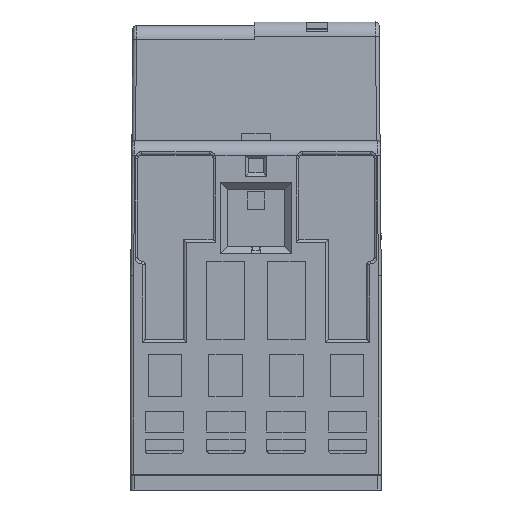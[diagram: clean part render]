
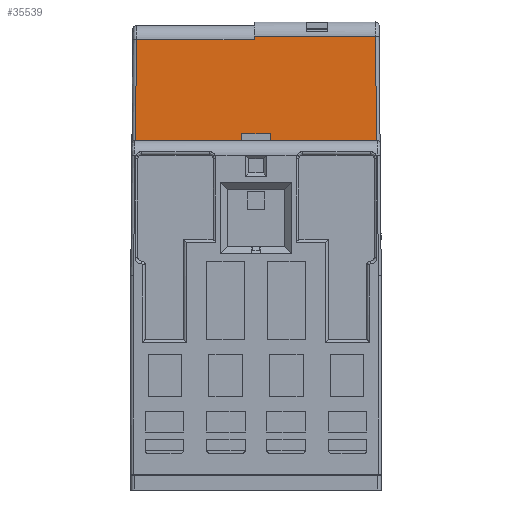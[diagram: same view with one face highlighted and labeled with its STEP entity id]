
A CAD part, front view. The second image highlights one B-rep face of the part: STEP entity #35539.
In plain terms, the highlighted planar face has unit normal (0, -1, 0.009).
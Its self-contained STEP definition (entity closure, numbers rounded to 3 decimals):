
#813 = ORIENTED_EDGE ( 'NONE', *, *, #4881, .T. ) ;
#856 = LINE ( 'NONE', #23758, #29423 ) ;
#1257 = CARTESIAN_POINT ( 'NONE',  ( 0.805, 20.191, 64.96 ) ) ;
#1551 = ORIENTED_EDGE ( 'NONE', *, *, #39621, .T. ) ;
#1689 = VERTEX_POINT ( 'NONE', #13921 ) ;
#2147 = CARTESIAN_POINT ( 'NONE',  ( 0., 20.05, 48.8 ) ) ;
#2700 = DIRECTION ( 'NONE',  ( 1., 0., 0. ) ) ;
#3242 = CARTESIAN_POINT ( 'NONE',  ( 34.208, 20.178, 63.422 ) ) ;
#3402 = ORIENTED_EDGE ( 'NONE', *, *, #27334, .F. ) ;
#4589 = DIRECTION ( 'NONE',  ( 1., 0., 0. ) ) ;
#4651 = DIRECTION ( 'NONE',  ( 1., 0., 0. ) ) ;
#4881 = EDGE_CURVE ( 'NONE', #5892, #37465, #20143, .T. ) ;
#4916 = EDGE_CURVE ( 'NONE', #18955, #30879, #31358, .T. ) ;
#5678 = EDGE_CURVE ( 'NONE', #8302, #35398, #11554, .T. ) ;
#5892 = VERTEX_POINT ( 'NONE', #30176 ) ;
#7245 = VECTOR ( 'NONE', #14444, 1000. ) ;
#7471 = CARTESIAN_POINT ( 'NONE',  ( 15.5, 20.05, 48.8 ) ) ;
#7814 = ORIENTED_EDGE ( 'NONE', *, *, #31598, .T. ) ;
#8091 = VECTOR ( 'NONE', #20500, 1000. ) ;
#8302 = VERTEX_POINT ( 'NONE', #20306 ) ;
#8951 = DIRECTION ( 'NONE',  ( 0., -1., 0.009 ) ) ;
#9365 = VECTOR ( 'NONE', #19216, 1000. ) ;
#9493 = CARTESIAN_POINT ( 'NONE',  ( 17.25, 20.05, 48.8 ) ) ;
#10836 = DIRECTION ( 'NONE',  ( 0., -0.009, -1. ) ) ;
#11554 = LINE ( 'NONE', #34260, #34221 ) ;
#12219 = PLANE ( 'NONE',  #38592 ) ;
#12438 = VECTOR ( 'NONE', #35226, 1000. ) ;
#12517 = VERTEX_POINT ( 'NONE', #15768 ) ;
#13046 = VECTOR ( 'NONE', #10836, 1000. ) ;
#13921 = CARTESIAN_POINT ( 'NONE',  ( 19.5, 20.05, 48.8 ) ) ;
#14019 = ORIENTED_EDGE ( 'NONE', *, *, #28217, .T. ) ;
#14444 = DIRECTION ( 'NONE',  ( 0.009, 0.009, 1. ) ) ;
#14535 = LINE ( 'NONE', #17749, #19539 ) ;
#15125 = VERTEX_POINT ( 'NONE', #22299 ) ;
#15768 = CARTESIAN_POINT ( 'NONE',  ( 17.25, 20.178, 63.422 ) ) ;
#17749 = CARTESIAN_POINT ( 'NONE',  ( -1.112, 20.178, 63.422 ) ) ;
#18955 = VERTEX_POINT ( 'NONE', #27743 ) ;
#19216 = DIRECTION ( 'NONE',  ( 0., -0.009, -1. ) ) ;
#19539 = VECTOR ( 'NONE', #20992, 1000. ) ;
#20143 = LINE ( 'NONE', #37408, #27619 ) ;
#20286 = DIRECTION ( 'NONE',  ( 0., 0.009, 1. ) ) ;
#20306 = CARTESIAN_POINT ( 'NONE',  ( 0.664, 20.05, 48.8 ) ) ;
#20500 = DIRECTION ( 'NONE',  ( -0.009, 0.009, 1. ) ) ;
#20609 = CARTESIAN_POINT ( 'NONE',  ( 34.336, 20.05, 48.8 ) ) ;
#20992 = DIRECTION ( 'NONE',  ( -1., 0., 0. ) ) ;
#21066 = CARTESIAN_POINT ( 'NONE',  ( 19.5, 20.059, 49.8 ) ) ;
#22299 = CARTESIAN_POINT ( 'NONE',  ( 34.208, 20.178, 63.422 ) ) ;
#22401 = EDGE_CURVE ( 'NONE', #15125, #12517, #14535, .T. ) ;
#23758 = CARTESIAN_POINT ( 'NONE',  ( 15.5, 20.05, 48.8 ) ) ;
#23833 = CARTESIAN_POINT ( 'NONE',  ( 17.25, 20.173, 62.917 ) ) ;
#26111 = LINE ( 'NONE', #2147, #28883 ) ;
#27334 = EDGE_CURVE ( 'NONE', #8302, #18955, #30877, .T. ) ;
#27619 = VECTOR ( 'NONE', #4589, 1000. ) ;
#27700 = LINE ( 'NONE', #40851, #13046 ) ;
#27743 = CARTESIAN_POINT ( 'NONE',  ( 0.787, 20.173, 62.917 ) ) ;
#27929 = CARTESIAN_POINT ( 'NONE',  ( 17.25, 20.173, 62.917 ) ) ;
#28176 = EDGE_LOOP ( 'NONE', ( #14019, #813, #1551, #34073, #36889, #40532, #7814, #31805, #3402, #35192 ) ) ;
#28217 = EDGE_CURVE ( 'NONE', #35398, #5892, #856, .T. ) ;
#28656 = VERTEX_POINT ( 'NONE', #20609 ) ;
#28883 = VECTOR ( 'NONE', #32389, 1000. ) ;
#29173 = LINE ( 'NONE', #9493, #9365 ) ;
#29423 = VECTOR ( 'NONE', #20286, 1000. ) ;
#29618 = LINE ( 'NONE', #3242, #8091 ) ;
#30176 = CARTESIAN_POINT ( 'NONE',  ( 15.5, 20.059, 49.8 ) ) ;
#30877 = LINE ( 'NONE', #1257, #7245 ) ;
#30879 = VERTEX_POINT ( 'NONE', #23833 ) ;
#31358 = LINE ( 'NONE', #27929, #12438 ) ;
#31598 = EDGE_CURVE ( 'NONE', #12517, #30879, #29173, .T. ) ;
#31805 = ORIENTED_EDGE ( 'NONE', *, *, #4916, .F. ) ;
#32292 = FACE_OUTER_BOUND ( 'NONE', #28176, .T. ) ;
#32389 = DIRECTION ( 'NONE',  ( 1., 0., 0. ) ) ;
#33374 = EDGE_CURVE ( 'NONE', #28656, #15125, #29618, .T. ) ;
#34073 = ORIENTED_EDGE ( 'NONE', *, *, #34151, .T. ) ;
#34151 = EDGE_CURVE ( 'NONE', #1689, #28656, #26111, .T. ) ;
#34221 = VECTOR ( 'NONE', #4651, 1000. ) ;
#34260 = CARTESIAN_POINT ( 'NONE',  ( 0., 20.05, 48.8 ) ) ;
#35192 = ORIENTED_EDGE ( 'NONE', *, *, #5678, .T. ) ;
#35226 = DIRECTION ( 'NONE',  ( 1., 0., 0. ) ) ;
#35398 = VERTEX_POINT ( 'NONE', #7471 ) ;
#35539 = ADVANCED_FACE ( 'NONE', ( #32292 ), #12219, .T. ) ;
#36889 = ORIENTED_EDGE ( 'NONE', *, *, #33374, .T. ) ;
#37408 = CARTESIAN_POINT ( 'NONE',  ( -1.112, 20.059, 49.8 ) ) ;
#37465 = VERTEX_POINT ( 'NONE', #21066 ) ;
#38558 = CARTESIAN_POINT ( 'NONE',  ( -1.112, 20.05, 48.8 ) ) ;
#38592 = AXIS2_PLACEMENT_3D ( 'NONE', #38558, #8951, #2700 ) ;
#39621 = EDGE_CURVE ( 'NONE', #37465, #1689, #27700, .T. ) ;
#40532 = ORIENTED_EDGE ( 'NONE', *, *, #22401, .T. ) ;
#40851 = CARTESIAN_POINT ( 'NONE',  ( 19.5, 20.05, 48.8 ) ) ;
